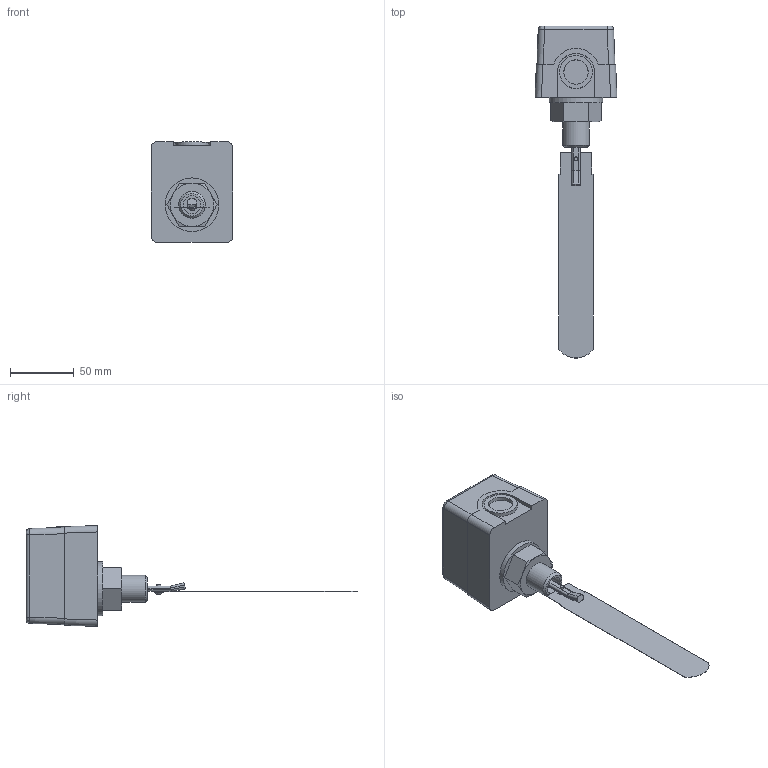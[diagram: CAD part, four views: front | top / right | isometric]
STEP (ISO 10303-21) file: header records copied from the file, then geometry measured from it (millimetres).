
FILE_DESCRIPTION(/* description */ ('РП-1-R1/2 Лопасть 161'),/* implementation_level */ '2;1');
FILE_NAME(/* name */ 'D:\STEP\РП\РП-1-R1_2 Лопасть 161.stp',/* time_stamp */ '2023-05-10T12:52:44+03:00',/* author */ ('Tech'),/* organization */ (''),/* preprocessor_version */ 'ST-DEVELOPER v18.1',/* originating_system */ 'Autodesk Inventor 2021',/* authorisation */ '');
FILE_SCHEMA (('AUTOMOTIVE_DESIGN { 1 0 10303 214 3 1 1 }'));
Length unit declared in the file: millimetre
Products named in the file (1): РП-1-R1/2 Лопасть 
161
Bounding box: 64 x 259.94 x 79 mm (x, y, z)
Volume: 283939.8 mm3; surface area: 40080.2 mm2
Topology: 4 solids, 4 shells, 197 faces, 507 edges, 338 vertices
Faces by surface type: plane 117, cylinder 65, cone 9, bspline 4, torus 1, sphere 1
Full cylindrical faces by diameter (mm): 2.584 x1, 3 x2, 3.2 x1, 4.5 x1, 5.115 x1, 5.5 x1, 7 x1, 14 x1, 19 x1, 20.955 x1, 26 x1, 42 x1
Entity records: 6214 total; most frequent: CARTESIAN_POINT 1198, DIRECTION 1050, ORIENTED_EDGE 1012, EDGE_CURVE 506, AXIS2_PLACEMENT_3D 370, VERTEX_POINT 338, LINE 310, VECTOR 310
